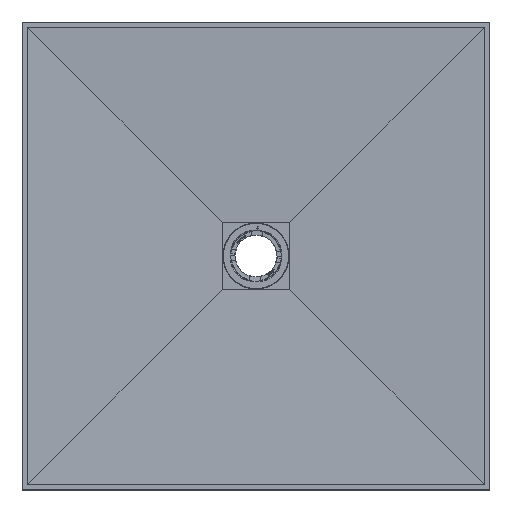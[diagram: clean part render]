
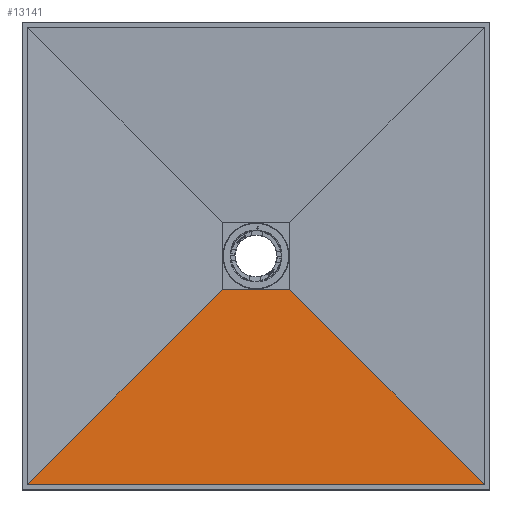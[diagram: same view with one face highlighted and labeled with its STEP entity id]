
A CAD part, top view. The second image highlights one B-rep face of the part: STEP entity #13141.
In plain terms, the highlighted planar face has unit normal (0, 0.039, 0.999).
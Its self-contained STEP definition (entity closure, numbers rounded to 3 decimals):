
#2341=FACE_OUTER_BOUND('',#3086,.T.);
#3086=EDGE_LOOP('',(#8812,#8813,#8814,#8815));
#3895=LINE('',#18657,#4516);
#3899=LINE('',#18666,#4520);
#3903=LINE('',#18672,#4524);
#3904=LINE('',#18674,#4525);
#4516=VECTOR('',#15354,10.);
#4520=VECTOR('',#15360,10.);
#4524=VECTOR('',#15368,10.);
#4525=VECTOR('',#15371,10.);
#5134=VERTEX_POINT('',#18654);
#5135=VERTEX_POINT('',#18656);
#5138=VERTEX_POINT('',#18663);
#5139=VERTEX_POINT('',#18665);
#6602=EDGE_CURVE('',#5134,#5135,#3895,.F.);
#6606=EDGE_CURVE('',#5139,#5138,#3899,.F.);
#6610=EDGE_CURVE('',#5134,#5139,#3903,.T.);
#6611=EDGE_CURVE('',#5135,#5138,#3904,.T.);
#8812=ORIENTED_EDGE('',*,*,#6602,.F.);
#8813=ORIENTED_EDGE('',*,*,#6610,.T.);
#8814=ORIENTED_EDGE('',*,*,#6606,.T.);
#8815=ORIENTED_EDGE('',*,*,#6611,.F.);
#13071=PLANE('',#13967);
#13141=ADVANCED_FACE('',(#2341),#13071,.F.);
#13967=AXIS2_PLACEMENT_3D('',#18673,#15369,#15370);
#15354=DIRECTION('',(1.,0.,0.));
#15360=DIRECTION('',(1.,0.,0.));
#15368=DIRECTION('',(-0.707,0.707,-0.028));
#15369=DIRECTION('center_axis',(0.,-0.039,-0.999));
#15370=DIRECTION('ref_axis',(-1.,0.,0.));
#15371=DIRECTION('',(0.707,0.707,-0.028));
#18654=CARTESIAN_POINT('',(950.875,-973.175,20.));
#18656=CARTESIAN_POINT('',(-90.475,-973.175,20.));
#18657=CARTESIAN_POINT('',(1031.35,-973.175,20.));
#18663=CARTESIAN_POINT('',(353.725,-528.975,2.5));
#18665=CARTESIAN_POINT('',(506.675,-528.975,2.5));
#18666=CARTESIAN_POINT('',(690.55,-528.975,2.5));
#18672=CARTESIAN_POINT('',(690.727,-713.027,9.751));
#18673=CARTESIAN_POINT('Origin',(950.9,-973.151,19.999));
#18674=CARTESIAN_POINT('',(169.673,-713.027,9.751));
